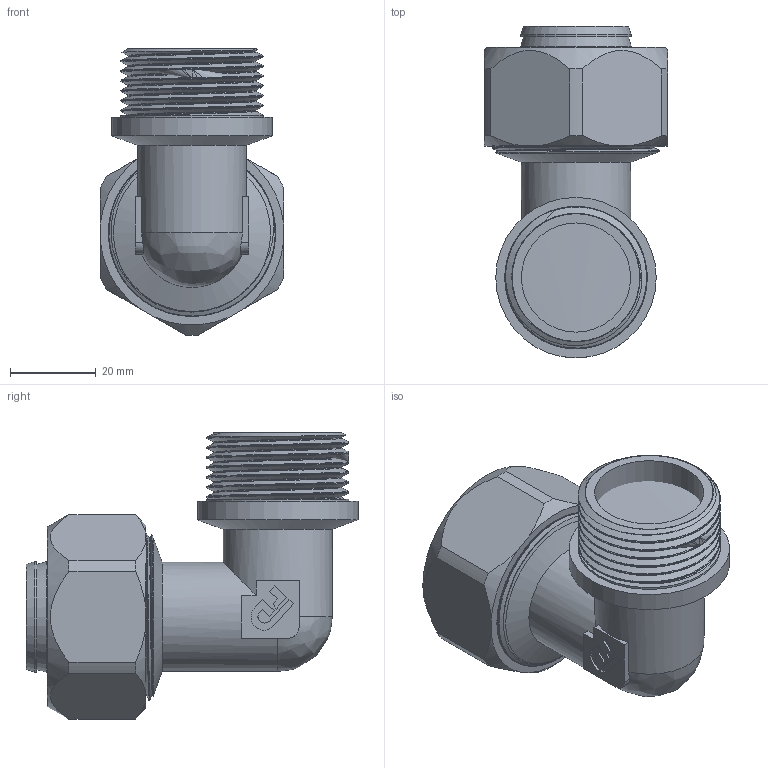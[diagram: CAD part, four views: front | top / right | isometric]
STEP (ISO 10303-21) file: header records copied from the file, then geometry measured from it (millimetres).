
FILE_DESCRIPTION(/* description */ (''),/* implementation_level */ '2;1');
FILE_NAME(/* name */ 'C:\Users\Doom\Desktop\Фадотех\Обжим\RFU28 32X1M 30.03.2020\RFU28 32X1M 30.03.2020.stp',/* time_stamp */ '2022-06-01T17:21:21+03:00',/* author */ ('Doom'),/* organization */ (''),/* preprocessor_version */ 'ST-DEVELOPER v18',/* originating_system */ 'Autodesk Inventor 2020',/* authorisation */ '');
FILE_SCHEMA (('AUTOMOTIVE_DESIGN { 1 0 10303 214 3 1 1 }'));
Length unit declared in the file: millimetre
Products named in the file (5): RFU28 32X1M 30.03.2020; RFU28 32X1M 30.03.2020_1; Olive 20 15.02.2020; FADO MC Socket-32 15.02.2020; FADO MC Nut-32 15.02.2020
Assembly tree (4 placements, depth 2):
  RFU28 32X1M 30.03.2020
    RFU28 32X1M 30.03.2020_1
    Olive 20 15.02.2020
    FADO MC Socket-32 15.02.2020
    FADO MC Nut-32 15.02.2020
Bounding box: 42.8 x 77.55 x 66.89 mm (x, y, z)
Volume: 41317.4 mm3; surface area: 47782 mm2
Topology: 7 solids, 7 shells, 603 faces, 1677 edges, 1131 vertices
Faces by surface type: bspline 282, plane 193, cylinder 100, cone 25, torus 3
Full cylindrical faces by diameter (mm): 21 x1, 21.5 x2, 23.6 x2, 25.5 x3, 25.8 x5, 26 x1, 29.816 x2, 29.995 x1, 30 x1, 30.5 x1, 32.5 x1, 33.24 x7, 36.5 x1, 36.776 x2, 37.5 x1, 37.517 x17, 38.2 x1, 39 x9
Entity records: 40482 total; most frequent: CARTESIAN_POINT 26685, ORIENTED_EDGE 3350, DIRECTION 1951, EDGE_CURVE 1675, VERTEX_POINT 1131, LINE 697, VECTOR 697, EDGE_LOOP 660
